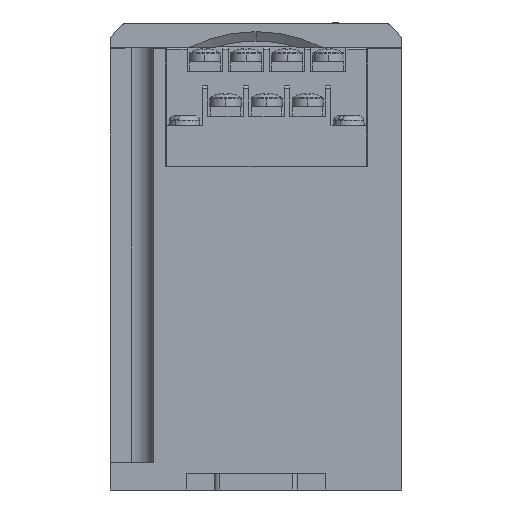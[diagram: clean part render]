
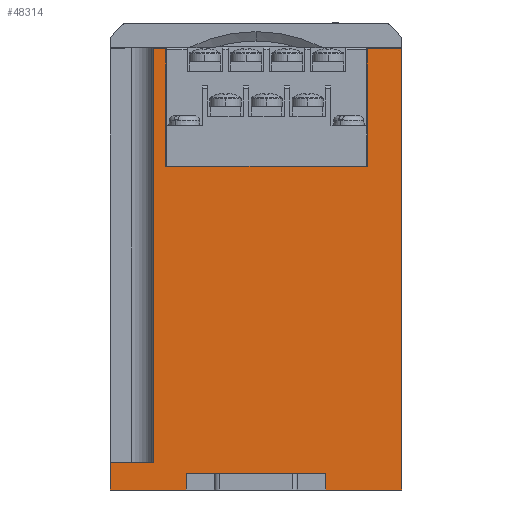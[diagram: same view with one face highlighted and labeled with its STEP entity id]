
A CAD part, front view. The second image highlights one B-rep face of the part: STEP entity #48314.
In plain terms, the highlighted planar face has unit normal (0, -1, 0).
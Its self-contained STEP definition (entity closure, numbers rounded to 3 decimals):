
#306 = ORIENTED_EDGE ( 'NONE', *, *, #30628, .F. ) ;
#552 = DIRECTION ( 'NONE',  ( 0., 0., 1. ) ) ;
#1345 = EDGE_CURVE ( 'NONE', #22256, #8886, #7135, .T. ) ;
#1499 = VECTOR ( 'NONE', #50826, 1000. ) ;
#1887 = EDGE_CURVE ( 'NONE', #39079, #42466, #46590, .T. ) ;
#1967 = VECTOR ( 'NONE', #5947, 1000. ) ;
#2465 = ORIENTED_EDGE ( 'NONE', *, *, #1345, .F. ) ;
#2610 = AXIS2_PLACEMENT_3D ( 'NONE', #5533, #11240, #26995 ) ;
#3378 = CARTESIAN_POINT ( 'NONE',  ( 46.3, 0., 79.4 ) ) ;
#3534 = CARTESIAN_POINT ( 'NONE',  ( 0., 0., 0. ) ) ;
#3969 = EDGE_LOOP ( 'NONE', ( #45264, #7300, #24022, #40291, #37195, #66201, #46133, #2465, #306, #13213, #37940, #42366, #17905, #47310 ) ) ;
#4241 = EDGE_CURVE ( 'NONE', #34207, #57047, #38423, .T. ) ;
#4321 = EDGE_CURVE ( 'NONE', #66581, #7380, #19066, .T. ) ;
#4359 = CARTESIAN_POINT ( 'NONE',  ( 0., 0., 5. ) ) ;
#5533 = CARTESIAN_POINT ( 'NONE',  ( 0., 0., 84. ) ) ;
#5893 = DIRECTION ( 'NONE',  ( 0., 0., -1. ) ) ;
#5947 = DIRECTION ( 'NONE',  ( 1., 0., 0. ) ) ;
#6935 = CARTESIAN_POINT ( 'NONE',  ( 13.7, 0., 3. ) ) ;
#7135 = LINE ( 'NONE', #40074, #15296 ) ;
#7300 = ORIENTED_EDGE ( 'NONE', *, *, #54538, .T. ) ;
#7380 = VERTEX_POINT ( 'NONE', #3534 ) ;
#8278 = VERTEX_POINT ( 'NONE', #48916 ) ;
#8872 = LINE ( 'NONE', #53965, #21027 ) ;
#8886 = VERTEX_POINT ( 'NONE', #61372 ) ;
#10365 = DIRECTION ( 'NONE',  ( 1., 0., 0. ) ) ;
#11240 = DIRECTION ( 'NONE',  ( 0., 1., 0. ) ) ;
#11252 = VERTEX_POINT ( 'NONE', #29032 ) ;
#11326 = VECTOR ( 'NONE', #10365, 1000. ) ;
#11342 = DIRECTION ( 'NONE',  ( 0., 0., -1. ) ) ;
#12450 = CARTESIAN_POINT ( 'NONE',  ( 38.8, 0., 0. ) ) ;
#12528 = VERTEX_POINT ( 'NONE', #48988 ) ;
#13213 = ORIENTED_EDGE ( 'NONE', *, *, #41675, .T. ) ;
#15296 = VECTOR ( 'NONE', #29753, 1000. ) ;
#15475 = VECTOR ( 'NONE', #32541, 1000. ) ;
#15615 = VERTEX_POINT ( 'NONE', #43266 ) ;
#15894 = DIRECTION ( 'NONE',  ( 0., 0., 1. ) ) ;
#15980 = CARTESIAN_POINT ( 'NONE',  ( 0., 0., 0. ) ) ;
#16356 = EDGE_CURVE ( 'NONE', #66581, #34207, #37872, .T. ) ;
#17419 = CARTESIAN_POINT ( 'NONE',  ( 46.3, 0., 58.25 ) ) ;
#17905 = ORIENTED_EDGE ( 'NONE', *, *, #17921, .F. ) ;
#17921 = EDGE_CURVE ( 'NONE', #23811, #11252, #59139, .T. ) ;
#18589 = DIRECTION ( 'NONE',  ( -1., 0., 0. ) ) ;
#19066 = LINE ( 'NONE', #51662, #65877 ) ;
#19573 = FACE_OUTER_BOUND ( 'NONE', #3969, .T. ) ;
#21027 = VECTOR ( 'NONE', #18589, 1000. ) ;
#21280 = CARTESIAN_POINT ( 'NONE',  ( 7.8, 0., -11.031 ) ) ;
#22116 = VECTOR ( 'NONE', #5893, 1000. ) ;
#22256 = VERTEX_POINT ( 'NONE', #6935 ) ;
#23811 = VERTEX_POINT ( 'NONE', #3378 ) ;
#24022 = ORIENTED_EDGE ( 'NONE', *, *, #45388, .F. ) ;
#25416 = LINE ( 'NONE', #17419, #39102 ) ;
#26995 = DIRECTION ( 'NONE',  ( 0., 0., 1. ) ) ;
#27603 = CARTESIAN_POINT ( 'NONE',  ( 52.5, 0., 84. ) ) ;
#28015 = VECTOR ( 'NONE', #34273, 1000. ) ;
#29032 = CARTESIAN_POINT ( 'NONE',  ( 52.5, 0., 79.4 ) ) ;
#29753 = DIRECTION ( 'NONE',  ( 0., 0., -1. ) ) ;
#30342 = LINE ( 'NONE', #15980, #1967 ) ;
#30452 = CARTESIAN_POINT ( 'NONE',  ( 0., 0., 5. ) ) ;
#30628 = EDGE_CURVE ( 'NONE', #35689, #22256, #8872, .T. ) ;
#32541 = DIRECTION ( 'NONE',  ( 0., 0., -1. ) ) ;
#33384 = LINE ( 'NONE', #62314, #22116 ) ;
#34003 = LINE ( 'NONE', #27603, #15475 ) ;
#34207 = VERTEX_POINT ( 'NONE', #57296 ) ;
#34273 = DIRECTION ( 'NONE',  ( 1., 0., 0. ) ) ;
#35689 = VERTEX_POINT ( 'NONE', #65969 ) ;
#36056 = CARTESIAN_POINT ( 'NONE',  ( 0., 0., 79.4 ) ) ;
#36959 = LINE ( 'NONE', #57184, #39340 ) ;
#37195 = ORIENTED_EDGE ( 'NONE', *, *, #16356, .F. ) ;
#37872 = LINE ( 'NONE', #4359, #1499 ) ;
#37940 = ORIENTED_EDGE ( 'NONE', *, *, #1887, .T. ) ;
#38423 = LINE ( 'NONE', #21280, #44062 ) ;
#38476 = LINE ( 'NONE', #50012, #28015 ) ;
#39079 = VERTEX_POINT ( 'NONE', #12450 ) ;
#39102 = VECTOR ( 'NONE', #48030, 1000. ) ;
#39340 = VECTOR ( 'NONE', #552, 1000. ) ;
#40074 = CARTESIAN_POINT ( 'NONE',  ( 13.7, 0., 98.479 ) ) ;
#40291 = ORIENTED_EDGE ( 'NONE', *, *, #4241, .F. ) ;
#41167 = CARTESIAN_POINT ( 'NONE',  ( 0., 0., 79.4 ) ) ;
#41675 = EDGE_CURVE ( 'NONE', #35689, #39079, #33384, .T. ) ;
#42343 = EDGE_CURVE ( 'NONE', #11252, #42466, #34003, .T. ) ;
#42366 = ORIENTED_EDGE ( 'NONE', *, *, #42343, .F. ) ;
#42466 = VERTEX_POINT ( 'NONE', #53300 ) ;
#43266 = CARTESIAN_POINT ( 'NONE',  ( 10., 0., 79.4 ) ) ;
#44062 = VECTOR ( 'NONE', #15894, 1000. ) ;
#44325 = DIRECTION ( 'NONE',  ( 1., 0., 0. ) ) ;
#45264 = ORIENTED_EDGE ( 'NONE', *, *, #49759, .F. ) ;
#45388 = EDGE_CURVE ( 'NONE', #57047, #15615, #50029, .T. ) ;
#46133 = ORIENTED_EDGE ( 'NONE', *, *, #52429, .T. ) ;
#46590 = LINE ( 'NONE', #60096, #52173 ) ;
#47310 = ORIENTED_EDGE ( 'NONE', *, *, #59718, .F. ) ;
#48030 = DIRECTION ( 'NONE',  ( 0., 0., 1. ) ) ;
#48314 = ADVANCED_FACE ( 'NONE', ( #19573 ), #57597, .F. ) ;
#48916 = CARTESIAN_POINT ( 'NONE',  ( 10., 0., 58.25 ) ) ;
#48988 = CARTESIAN_POINT ( 'NONE',  ( 46.3, 0., 58.25 ) ) ;
#49759 = EDGE_CURVE ( 'NONE', #8278, #12528, #38476, .T. ) ;
#50012 = CARTESIAN_POINT ( 'NONE',  ( 10., 0., 58.25 ) ) ;
#50029 = LINE ( 'NONE', #36056, #11326 ) ;
#50826 = DIRECTION ( 'NONE',  ( 1., 0., 0. ) ) ;
#51662 = CARTESIAN_POINT ( 'NONE',  ( 0., 0., 84. ) ) ;
#52173 = VECTOR ( 'NONE', #44325, 1000. ) ;
#52429 = EDGE_CURVE ( 'NONE', #7380, #8886, #30342, .T. ) ;
#52747 = CARTESIAN_POINT ( 'NONE',  ( 7.8, 0., 79.4 ) ) ;
#53300 = CARTESIAN_POINT ( 'NONE',  ( 52.5, 0., 0. ) ) ;
#53965 = CARTESIAN_POINT ( 'NONE',  ( 38.8, 0., 3. ) ) ;
#54538 = EDGE_CURVE ( 'NONE', #8278, #15615, #36959, .T. ) ;
#57047 = VERTEX_POINT ( 'NONE', #52747 ) ;
#57184 = CARTESIAN_POINT ( 'NONE',  ( 10., 0., 58.25 ) ) ;
#57296 = CARTESIAN_POINT ( 'NONE',  ( 7.8, 0., 5. ) ) ;
#57597 = PLANE ( 'NONE',  #2610 ) ;
#59139 = LINE ( 'NONE', #41167, #65662 ) ;
#59718 = EDGE_CURVE ( 'NONE', #12528, #23811, #25416, .T. ) ;
#60096 = CARTESIAN_POINT ( 'NONE',  ( 0., 0., 0. ) ) ;
#61372 = CARTESIAN_POINT ( 'NONE',  ( 13.7, 0., 0. ) ) ;
#61938 = DIRECTION ( 'NONE',  ( 1., 0., 0. ) ) ;
#62314 = CARTESIAN_POINT ( 'NONE',  ( 38.8, 0., 98.479 ) ) ;
#65662 = VECTOR ( 'NONE', #61938, 1000. ) ;
#65877 = VECTOR ( 'NONE', #11342, 1000. ) ;
#65969 = CARTESIAN_POINT ( 'NONE',  ( 38.8, 0., 3. ) ) ;
#66201 = ORIENTED_EDGE ( 'NONE', *, *, #4321, .T. ) ;
#66581 = VERTEX_POINT ( 'NONE', #30452 ) ;
